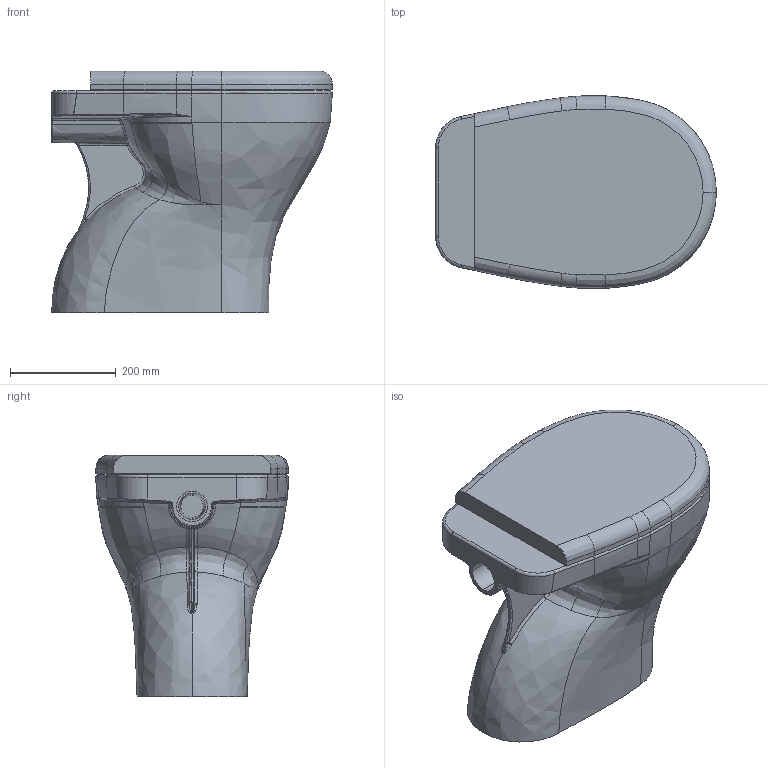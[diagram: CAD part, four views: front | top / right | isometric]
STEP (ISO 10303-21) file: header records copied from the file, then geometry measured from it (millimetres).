
FILE_DESCRIPTION(('CATIA V5 STEP Exchange'),'2;1');
FILE_NAME('C:\Users\Luca\Downloads\3D 7252 Vaso terra EDEN.stp','2021-03-31T07:43:23+00:00',('none'),('none'),'CATIA Version 5 Release 19 SP 5 (IN-10)','CATIA V5 STEP AP214','none');
FILE_SCHEMA(('AUTOMOTIVE_DESIGN { 1 0 10303 214 1 1 1 1 }'));
Products named in the file (1): Vaso terra EDEN 
Bounding box: 530.05 x 364.03 x 457 mm (x, y, z)
Volume: 4926932.9 mm3; surface area: 1692343.7 mm2
Topology: 1 solids, 2 shells, 503 faces, 1273 edges, 756 vertices
Faces by surface type: bspline 416, plane 27, cylinder 24, extrusion 24, torus 8, sphere 4
Entity records: 154100 total; most frequent: CARTESIAN_POINT 145768, ORIENTED_EDGE 2498, EDGE_CURVE 1257, B_SPLINE_CURVE_WITH_KNOTS 1160, VERTEX_POINT 756, EDGE_LOOP 509, ADVANCED_FACE 503, FACE_OUTER_BOUND 503
